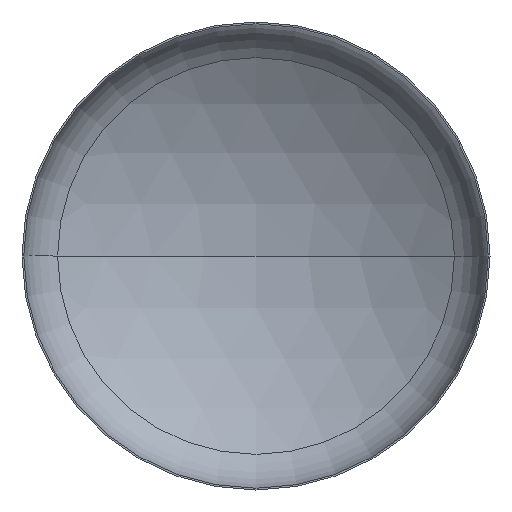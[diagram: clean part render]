
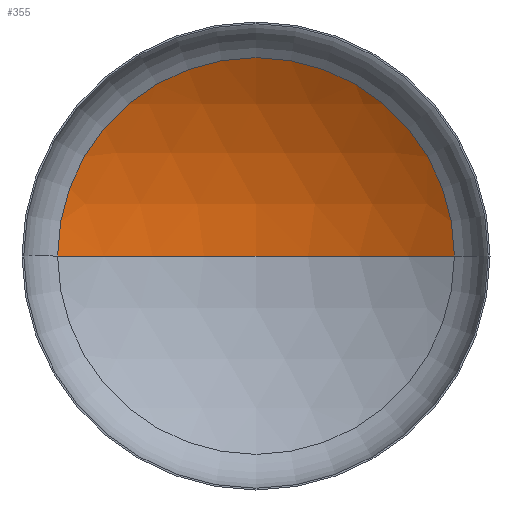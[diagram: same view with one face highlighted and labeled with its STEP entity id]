
A CAD part, front view. The second image highlights one B-rep face of the part: STEP entity #355.
In plain terms, the highlighted spherical face has radius 6000 mm.
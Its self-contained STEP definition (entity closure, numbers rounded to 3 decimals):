
#26 = DIRECTION ( 'NONE',  ( 0., 0., -1. ) ) ;
#50 = AXIS2_PLACEMENT_3D ( 'NONE', #141, #268, #267 ) ;
#52 = AXIS2_PLACEMENT_3D ( 'NONE', #261, #260, #258 ) ;
#54 = AXIS2_PLACEMENT_3D ( 'NONE', #271, #269, #287 ) ;
#62 = DIRECTION ( 'NONE',  ( -1., 0., 0. ) ) ;
#70 = CIRCLE ( 'NONE', #54, 3178.947 ) ;
#82 = EDGE_CURVE ( 'NONE', #317, #138, #70, .T. ) ;
#83 = EDGE_CURVE ( 'NONE', #342, #317, #379, .T. ) ;
#84 = CARTESIAN_POINT ( 'NONE',  ( -3178.947, 1064.564, 0. ) ) ;
#88 = EDGE_CURVE ( 'NONE', #342, #138, #232, .T. ) ;
#92 = CARTESIAN_POINT ( 'NONE',  ( 0., -4024.08, 0. ) ) ;
#101 = SPHERICAL_SURFACE ( 'NONE', #336, 6000. ) ;
#108 = CARTESIAN_POINT ( 'NONE',  ( 3178.947, 1064.564, 0. ) ) ;
#130 = ORIENTED_EDGE ( 'NONE', *, *, #83, .T. ) ;
#138 = VERTEX_POINT ( 'NONE', #84 ) ;
#141 = CARTESIAN_POINT ( 'NONE',  ( 0., -4024.08, 0. ) ) ;
#149 = EDGE_LOOP ( 'NONE', ( #230, #130, #334 ) ) ;
#230 = ORIENTED_EDGE ( 'NONE', *, *, #88, .F. ) ;
#232 = CIRCLE ( 'NONE', #50, 6000. ) ;
#244 = FACE_OUTER_BOUND ( 'NONE', #149, .T. ) ;
#258 = DIRECTION ( 'NONE',  ( -1., 0., 0. ) ) ;
#260 = DIRECTION ( 'NONE',  ( 0., 0., -1. ) ) ;
#261 = CARTESIAN_POINT ( 'NONE',  ( 0., -4024.08, 0. ) ) ;
#267 = DIRECTION ( 'NONE',  ( 1., 0., 0. ) ) ;
#268 = DIRECTION ( 'NONE',  ( 0., 0., 1. ) ) ;
#269 = DIRECTION ( 'NONE',  ( 0., -1., 0. ) ) ;
#271 = CARTESIAN_POINT ( 'NONE',  ( 0., 1064.564, 0. ) ) ;
#287 = DIRECTION ( 'NONE',  ( 1., 0., 0. ) ) ;
#303 = CARTESIAN_POINT ( 'NONE',  ( 0., 1975.92, 0. ) ) ;
#317 = VERTEX_POINT ( 'NONE', #108 ) ;
#334 = ORIENTED_EDGE ( 'NONE', *, *, #82, .T. ) ;
#336 = AXIS2_PLACEMENT_3D ( 'NONE', #92, #26, #62 ) ;
#342 = VERTEX_POINT ( 'NONE', #303 ) ;
#355 = ADVANCED_FACE ( 'NONE', ( #244 ), #101, .F. ) ;
#379 = CIRCLE ( 'NONE', #52, 6000. ) ;
